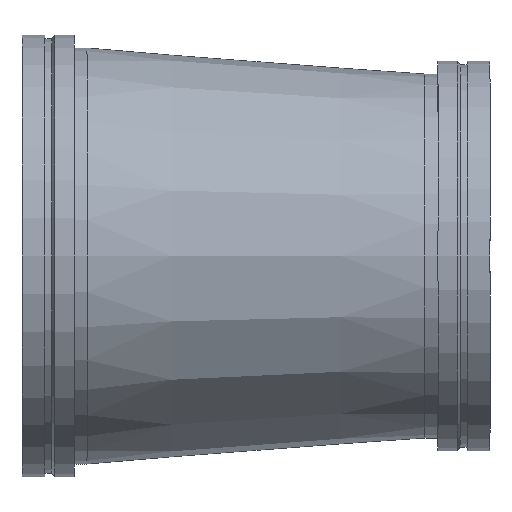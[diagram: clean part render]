
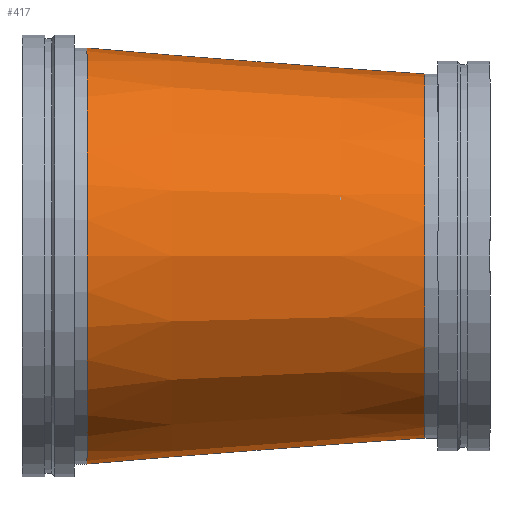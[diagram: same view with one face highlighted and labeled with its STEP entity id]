
A CAD part, front view. The second image highlights one B-rep face of the part: STEP entity #417.
In plain terms, the highlighted conical face has half-angle 4.399 degrees and reference radius 381 mm.
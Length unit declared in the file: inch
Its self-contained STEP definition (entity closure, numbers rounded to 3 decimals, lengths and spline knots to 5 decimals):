
#46=CONICAL_SURFACE('',#475,15.,0.077);
#54=LINE('',#739,#68);
#68=VECTOR('',#587,15.);
#101=FACE_OUTER_BOUND('',#124,.T.);
#124=EDGE_LOOP('',(#315,#316,#317,#318,#319,#320));
#155=CIRCLE('',#473,16.);
#156=CIRCLE('',#474,16.);
#157=CIRCLE('',#476,14.);
#158=CIRCLE('',#477,14.);
#195=VERTEX_POINT('',#729);
#196=VERTEX_POINT('',#730);
#197=VERTEX_POINT('',#735);
#198=VERTEX_POINT('',#736);
#239=EDGE_CURVE('',#195,#196,#155,.T.);
#240=EDGE_CURVE('',#196,#195,#156,.T.);
#242=EDGE_CURVE('',#197,#198,#157,.T.);
#243=EDGE_CURVE('',#198,#197,#158,.T.);
#244=EDGE_CURVE('',#198,#196,#54,.T.);
#315=ORIENTED_EDGE('',*,*,#242,.F.);
#316=ORIENTED_EDGE('',*,*,#243,.F.);
#317=ORIENTED_EDGE('',*,*,#244,.T.);
#318=ORIENTED_EDGE('',*,*,#240,.T.);
#319=ORIENTED_EDGE('',*,*,#239,.T.);
#320=ORIENTED_EDGE('',*,*,#244,.F.);
#417=ADVANCED_FACE('',(#101),#46,.T.);
#473=AXIS2_PLACEMENT_3D('',#731,#576,#577);
#474=AXIS2_PLACEMENT_3D('',#732,#578,#579);
#475=AXIS2_PLACEMENT_3D('',#734,#581,#582);
#476=AXIS2_PLACEMENT_3D('',#737,#583,#584);
#477=AXIS2_PLACEMENT_3D('',#738,#585,#586);
#576=DIRECTION('center_axis',(1.,0.,0.));
#577=DIRECTION('ref_axis',(0.,0.,-1.));
#578=DIRECTION('center_axis',(1.,0.,0.));
#579=DIRECTION('ref_axis',(0.,0.,-1.));
#581=DIRECTION('center_axis',(-1.,0.,0.));
#582=DIRECTION('ref_axis',(0.,1.,0.));
#583=DIRECTION('center_axis',(1.,0.,0.));
#584=DIRECTION('ref_axis',(0.,0.,-1.));
#585=DIRECTION('center_axis',(1.,0.,0.));
#586=DIRECTION('ref_axis',(0.,0.,-1.));
#587=DIRECTION('',(-0.997,-0.077,0.));
#729=CARTESIAN_POINT('',(5.,16.,0.));
#730=CARTESIAN_POINT('',(5.,-16.,0.));
#731=CARTESIAN_POINT('Origin',(5.,0.,0.));
#732=CARTESIAN_POINT('Origin',(5.,0.,0.));
#734=CARTESIAN_POINT('Origin',(18.,0.,0.));
#735=CARTESIAN_POINT('',(31.,14.,0.));
#736=CARTESIAN_POINT('',(31.,-14.,0.));
#737=CARTESIAN_POINT('Origin',(31.,0.,0.));
#738=CARTESIAN_POINT('Origin',(31.,0.,0.));
#739=CARTESIAN_POINT('',(18.,-15.,0.));
